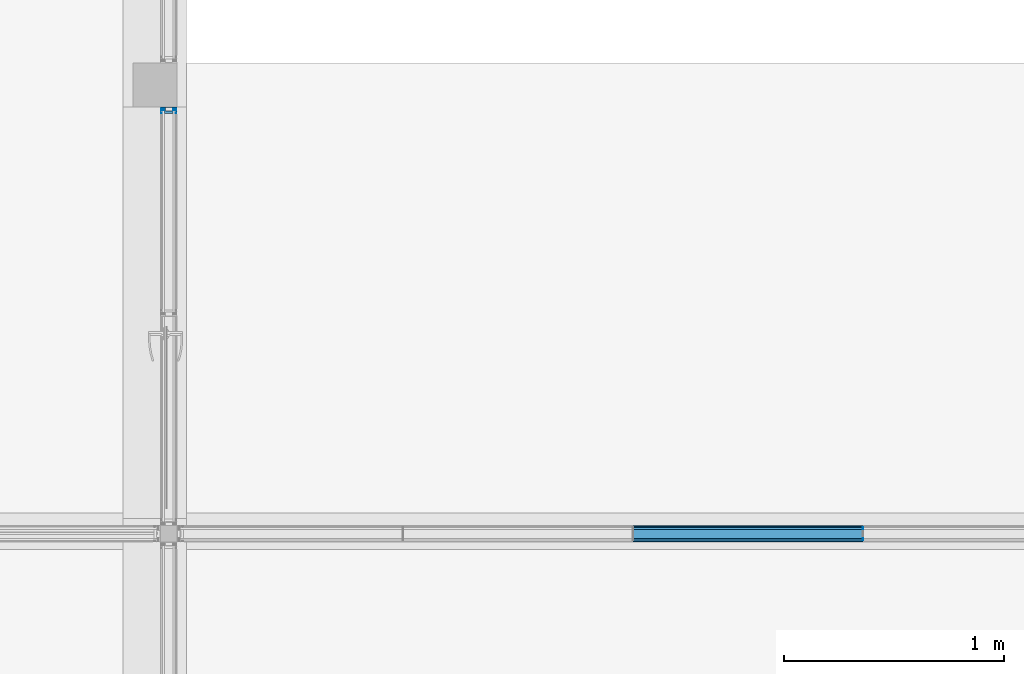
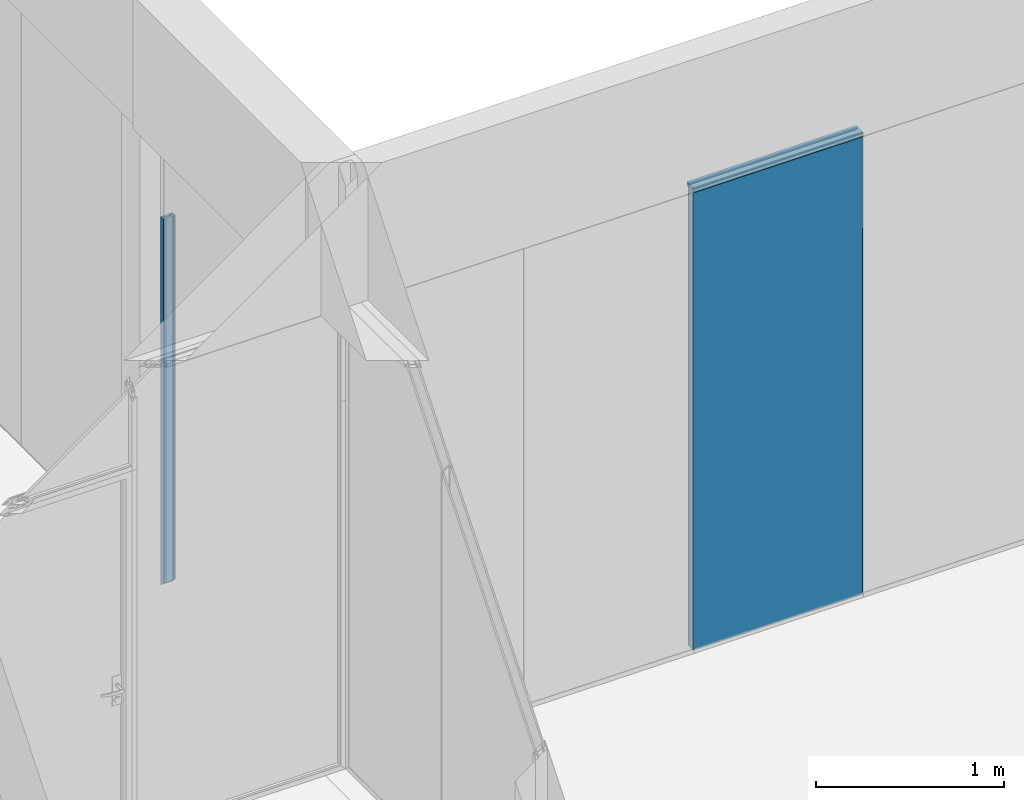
# One storey, part 74 of 387: 7 building element parts, 6 elements without a shape of their own.
"""IFC2X3 building model written with IfcOpenShell, lengths in millimetres."""

from ifc_helpers import new_model, entity, si_unit, converted_unit, derived_unit, money_unit, direction, frame, origin_with_axes, place, context, subcontext, project, spatial, faceted_brep, source, transform, mapped, material, type_object, element, aggregate, save


model = new_model("IFC2X3")

# Units and contexts
model_context = context("Model", 3, precision=0.01, world=origin_with_axes(), true_north=direction((0.0, 1.0)))
body_context = subcontext(model_context, "Body", "Model", "MODEL_VIEW")
ifc_project = project(units=[si_unit("LENGTHUNIT", "METRE", prefix="MILLI"), si_unit("AREAUNIT", "SQUARE_METRE"), si_unit("VOLUMEUNIT", "CUBIC_METRE"), converted_unit("PLANEANGLEUNIT", "DEGREE", entity("IfcPlaneAngleMeasure", 0.0174532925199), si_unit("PLANEANGLEUNIT", "RADIAN"), dimensions=[0, 0, 0, 0, 0, 0, 0]), si_unit("SOLIDANGLEUNIT", "STERADIAN"), money_unit("EUR"), converted_unit("TIMEUNIT", "Year", entity("IfcTimeMeasure", 31556926.0), si_unit("TIMEUNIT", "SECOND"), dimensions=[0, 0, 1, 0, 0, 0, 0]), si_unit("MASSUNIT", "GRAM", prefix="KILO"), si_unit("THERMODYNAMICTEMPERATUREUNIT", "DEGREE_CELSIUS"), si_unit("LUMINOUSINTENSITYUNIT", "LUMEN"), si_unit("ENERGYUNIT", "JOULE", prefix="MEGA"), derived_unit("THERMALCONDUCTANCEUNIT", [(si_unit("POWERUNIT", "WATT"), 1), (si_unit("LENGTHUNIT", "METRE"), -1), (si_unit("THERMODYNAMICTEMPERATUREUNIT", "KELVIN"), -1)]), derived_unit("SPECIFICHEATCAPACITYUNIT", [(si_unit("ENERGYUNIT", "JOULE"), 1), (si_unit("MASSUNIT", "GRAM", prefix="KILO"), -1), (si_unit("THERMODYNAMICTEMPERATUREUNIT", "KELVIN"), -1)]), derived_unit("MASSDENSITYUNIT", [(si_unit("MASSUNIT", "GRAM", prefix="KILO"), 1), (si_unit("VOLUMEUNIT", "CUBIC_METRE"), -1)])], contexts=[model_context])

# Site, building, storey
site_placement = place(None, origin_with_axes())
site = spatial("IfcSite", under=ifc_project, at=site_placement, Name="Puškini 31, Narva", CompositionType="ELEMENT")
building_placement = place(site_placement, origin_with_axes())
building = spatial("IfcBuilding", under=site, at=building_placement, Name="Narva Riigigümnaasium", CompositionType="ELEMENT")
storey_placement = place(building_placement, frame((0.0, 0.0, 2640.0), z_axis=(0.0, 0.0, 1.0), x_axis=(1.0, 0.0, 0.0)))
storey = spatial("IfcBuildingStorey", under=building, at=storey_placement, Name="2.korrus +2.64", CompositionType="ELEMENT", Elevation=2640.0)

# Curtain wall, member, building element parts
curtain_wall_type = type_object("IfcCurtainWallType", Name="Curtain Wall Type", PredefinedType="NOTDEFINED")
curtain_wall_1_placement = place(storey_placement, frame((32763.0000013, 173975.000001, -1.33722362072e-05), z_axis=(0.0, 0.0, 1.0), x_axis=(1.0, 0.0, 0.0)))
curtain_wall_1 = element("IfcCurtainWall", 1, at=curtain_wall_1_placement, inside=storey, type_object=curtain_wall_type, Name="G-SKLF-14")
member_type_1 = type_object("IfcMemberType", Name="30 x 37", PredefinedType="MULLION")
member_1_placement = place(curtain_wall_1_placement, frame((3.74171804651e-08, 1425.0001142, 0.0), z_axis=(0.0, 0.0, 1.0), x_axis=(0.0, -1.0, 0.0)))
member_1 = element("IfcMember", 2, at=member_1_placement, type_object=member_type_1, Name="G-SKLF-14-raam", ObjectType="MULLION")
aggregate(curtain_wall_1, [member_1])
ifc_material_1 = material(Name="Klaasvill")
shared_shape_1 = source(origin_with_axes(), body_context, "Body", "Brep", [
    faceted_brep([(-13.8499999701, 20.000000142, 13.8499999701), (-7.49999990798, 20.000000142, 7.49999990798), (-7.49999990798, 20.000000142, 2400.00000477), (-13.8499999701, 20.000000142, 2400.00000477), (-13.8499999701, 34.0161444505, 13.8499999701), (-7.49999990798, 34.0161444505, 7.49999990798), (-7.49999990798, 34.0161444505, 2400.00000477), (-13.8499999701, 34.0161444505, 2400.00000477)], [[[0, 1, 2, 3]], [[1, 0, 4, 5]], [[1, 5, 6, 2]], [[2, 6, 7, 3]], [[4, 0, 3, 7]], [[5, 4, 7, 6]]]),
    faceted_brep([(-25.004489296, 32.0307503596, 25.004489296), (-24.987414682, 34.0161444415, 24.987414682), (-24.987414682, 34.0161444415, 2400.00000477), (-25.004489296, 32.0307503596, 2400.00000477), (-25.742237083, 31.2930025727, 25.742237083), (-26.7500193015, 31.0229681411, 26.7500193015), (-27.75780152, 31.2930025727, 27.75780152), (-28.4955493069, 32.0307503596, 28.4955493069), (-28.7655837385, 33.0385325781, 28.7655837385), (-28.5126239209, 34.0161444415, 28.5126239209), (-28.5126239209, 34.0161444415, 2400.00000477), (-28.7655837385, 33.0385325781, 2400.00000477), (-28.4955493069, 32.0307503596, 2400.00000477), (-27.75780152, 31.2930025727, 2400.00000477), (-26.7500193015, 31.0229681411, 2400.00000477), (-25.742237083, 31.2930025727, 2400.00000477)], [[[0, 1, 2, 3]], [[1, 0, 4, 5, 6, 7, 8, 9]], [[1, 9, 10, 2]], [[2, 10, 11, 12, 13, 14, 15, 3]], [[4, 0, 3, 15]], [[5, 4, 15, 14]], [[6, 5, 14, 13]], [[7, 6, 13, 12]], [[8, 7, 12, 11]], [[9, 8, 11, 10]]]),
    faceted_brep([(-7.49999990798, -34.0161445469, 7.49999990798), (-7.49999990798, -19.9999997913, 7.49999990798), (-7.49999990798, -19.9999997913, 2400.00000477), (-7.49999990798, -34.0161445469, 2400.00000477), (-13.8499999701, -34.0161445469, 13.8499999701), (-13.8499999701, -19.9999997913, 13.8499999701), (-13.8499999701, -19.9999997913, 2400.00000477), (-13.8499999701, -34.0161445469, 2400.00000477)], [[[0, 1, 2, 3]], [[1, 0, 4, 5]], [[1, 5, 6, 2]], [[2, 6, 7, 3]], [[4, 0, 3, 7]], [[5, 4, 7, 6]]]),
    faceted_brep([(-24.987414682, -34.0161444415, 24.987414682), (-25.004489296, -32.0307503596, 25.004489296), (-25.004489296, -32.0307503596, 2400.00000477), (-24.987414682, -34.0161444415, 2400.00000477), (-28.5126239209, -34.0161444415, 28.5126239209), (-28.7655837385, -33.0385325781, 28.7655837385), (-28.4955493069, -32.0307503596, 28.4955493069), (-27.75780152, -31.2930025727, 27.75780152), (-26.7500193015, -31.0229681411, 26.7500193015), (-25.742237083, -31.2930025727, 25.742237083), (-25.742237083, -31.2930025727, 2400.00000477), (-26.7500193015, -31.0229681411, 2400.00000477), (-27.75780152, -31.2930025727, 2400.00000477), (-28.4955493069, -32.0307503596, 2400.00000477), (-28.7655837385, -33.0385325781, 2400.00000477), (-28.5126239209, -34.0161444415, 2400.00000477)], [[[0, 1, 2, 3]], [[1, 0, 4, 5, 6, 7, 8, 9]], [[1, 9, 10, 2]], [[2, 10, 11, 12, 13, 14, 15, 3]], [[4, 0, 3, 15]], [[5, 4, 15, 14]], [[6, 5, 14, 13]], [[7, 6, 13, 12]], [[8, 7, 12, 11]], [[9, 8, 11, 10]]]),
])
building_element_part_1_placement = place(member_1_placement, origin_with_axes())
building_element_part_1 = element("IfcBuildingElementPart", 3, at=building_element_part_1_placement, material=ifc_material_1, Name="Klaasvill", context=body_context, shape_type="MappedRepresentation", body=[
    mapped(shared_shape_1, transform((0.0, 0.0, 0.0), x_axis=(-1.0, 0.0, 0.0), y_axis=(0.0, -1.0, 0.0), z_axis=(0.0, 0.0, 1.0))),
])
ifc_material_2 = material(Name="Teras RAL7012")
shared_shape_2 = source(origin_with_axes(), body_context, "Body", "Brep", [
    faceted_brep([(-29.5999996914, -17.0000000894, 29.5999996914), (0.0, -17.0000000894, 0.0), (0.0, -17.0000000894, 2400.00000477), (-29.5999996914, -17.0000000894, 2400.00000477), (-29.5999996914, 17.0000000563, 29.5999996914), (0.0, 17.0000000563, 0.0), (-1.9999999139, 15.0000001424, 1.9999999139), (-18.7999996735, 15.0000001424, 18.7999996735), (-18.7999996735, -15.0000001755, 18.7999996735), (-1.9999999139, -15.0000001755, 1.9999999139), (0.0, 17.0000000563, 2400.00000477), (-29.5999996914, 17.0000000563, 2400.00000477), (-1.9999999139, 15.0000001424, 2400.00000477), (-1.9999999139, -15.0000001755, 2400.00000477), (-18.7999996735, -15.0000001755, 2400.00000477), (-18.7999996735, 15.0000001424, 2400.00000477)], [[[0, 1, 2, 3]], [[1, 0, 4, 5], [6, 7, 8, 9]], [[1, 5, 10, 2]], [[2, 10, 11, 3], [12, 13, 14, 15]], [[4, 0, 3, 11]], [[5, 4, 11, 10]], [[7, 6, 12, 15]], [[8, 7, 15, 14]], [[9, 8, 14, 13]], [[6, 9, 13, 12]]]),
    faceted_brep([(-29.5999996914, 17.0000000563, 29.5999996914), (0.0, 17.0, 0.0), (0.0, 17.0, 2400.00000477), (-29.5999996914, 17.0000000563, 2400.00000477), (-30.0000193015, 17.0, 30.0000193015), (-30.0000193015, 20.0, 30.0000193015), (-13.8499999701, 20.000000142, 13.8499999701), (-7.49999999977, 20.0, 7.49999999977), (-7.49999999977, 34.0161444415, 7.49999999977), (-13.8499999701, 34.0161444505, 13.8499999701), (-24.987414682, 34.0161444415, 24.987414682), (-28.5126239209, 34.0161444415, 28.5126239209), (-30.0000193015, 34.0161444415, 30.0000193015), (-30.0000193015, 37.0, 30.0000193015), (0.0, 37.0, 0.0), (0.0, 37.0, 2400.00000477), (-30.0000193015, 37.0, 2400.00000477), (-30.0000193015, 34.0161444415, 2400.00000477), (-28.5126239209, 34.0161444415, 2400.00000477), (-24.987414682, 34.0161444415, 2400.00000477), (-13.8499999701, 34.0161444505, 2400.00000477), (-7.49999999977, 34.0161444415, 2400.00000477), (-7.49999999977, 20.0, 2400.00000477), (-13.8499999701, 20.000000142, 2400.00000477), (-30.0000193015, 20.0, 2400.00000477), (-30.0000193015, 17.0, 2400.00000477)], [[[0, 1, 2, 3]], [[1, 0, 4, 5, 6, 7, 8, 9, 10, 11, 12, 13, 14]], [[1, 14, 15, 2]], [[2, 15, 16, 17, 18, 19, 20, 21, 22, 23, 24, 25, 3]], [[4, 0, 3, 25]], [[5, 4, 25, 24]], [[6, 5, 24, 23]], [[7, 6, 23, 22]], [[8, 7, 22, 21]], [[9, 8, 21, 20]], [[10, 9, 20, 19]], [[11, 10, 19, 18]], [[12, 11, 18, 17]], [[13, 12, 17, 16]], [[14, 13, 16, 15]]]),
    faceted_brep([(0.0, -37.0, 0.0), (0.0, -17.0, 0.0), (0.0, -17.0, 2400.00000477), (0.0, -37.0, 2400.00000477), (-30.0000193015, -37.0, 30.0000193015), (-30.0000193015, -34.0161444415, 30.0000193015), (-28.5126239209, -34.0161444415, 28.5126239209), (-24.987414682, -34.0161444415, 24.987414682), (-13.8499999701, -34.0161445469, 13.8499999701), (-7.49999999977, -34.0161444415, 7.49999999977), (-7.49999999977, -20.0, 7.49999999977), (-13.8499999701, -19.9999997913, 13.8499999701), (-30.0000193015, -20.0, 30.0000193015), (-30.0000193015, -17.0, 30.0000193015), (-29.5999996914, -17.0000000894, 29.5999996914), (-29.5999996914, -17.0000000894, 2400.00000477), (-30.0000193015, -17.0, 2400.00000477), (-30.0000193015, -20.0, 2400.00000477), (-13.8499999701, -19.9999997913, 2400.00000477), (-7.49999999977, -20.0, 2400.00000477), (-7.49999999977, -34.0161444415, 2400.00000477), (-13.8499999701, -34.0161445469, 2400.00000477), (-24.987414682, -34.0161444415, 2400.00000477), (-28.5126239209, -34.0161444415, 2400.00000477), (-30.0000193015, -34.0161444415, 2400.00000477), (-30.0000193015, -37.0, 2400.00000477)], [[[0, 1, 2, 3]], [[1, 0, 4, 5, 6, 7, 8, 9, 10, 11, 12, 13, 14]], [[1, 14, 15, 2]], [[2, 15, 16, 17, 18, 19, 20, 21, 22, 23, 24, 25, 3]], [[4, 0, 3, 25]], [[5, 4, 25, 24]], [[6, 5, 24, 23]], [[7, 6, 23, 22]], [[8, 7, 22, 21]], [[9, 8, 21, 20]], [[10, 9, 20, 19]], [[11, 10, 19, 18]], [[12, 11, 18, 17]], [[13, 12, 17, 16]], [[14, 13, 16, 15]]]),
])
building_element_part_2_placement = place(member_1_placement, origin_with_axes())
building_element_part_2 = element("IfcBuildingElementPart", 4, at=building_element_part_2_placement, material=ifc_material_2, Name="Teras RAL7012", context=body_context, shape_type="MappedRepresentation", body=[
    mapped(shared_shape_2, transform((0.0, 0.0, 0.0), x_axis=(-1.0, 0.0, 0.0), y_axis=(0.0, -1.0, 0.0), z_axis=(0.0, 0.0, 1.0))),
])
aggregate(member_1, [building_element_part_1, building_element_part_2])

# Curtain wall, members, building element parts, plate
curtain_wall_2_placement = place(storey_placement, frame((37550.2857124, 173462.999993, -4.40148757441e-05), z_axis=(0.0, 0.0, 1.0), x_axis=(1.0, 0.0, 0.0)))
curtain_wall_2 = element("IfcCurtainWall", 5, at=curtain_wall_2_placement, inside=storey, type_object=curtain_wall_type, Name="G-SKLF-27")
member_2_placement = place(curtain_wall_2_placement, frame((-2680.28571429, -1.87583282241e-08, 3029.99994006), z_axis=(1.0, 0.0, 0.0), x_axis=(0.0, 0.0, -1.0)))
member_2 = element("IfcMember", 6, at=member_2_placement, type_object=member_type_1, Name="G-SKLF-57-raam", ObjectType="MULLION")
shared_shape_3 = source(origin_with_axes(), body_context, "Body", "Brep", [
    faceted_brep([(7.49999990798, 20.000000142, 0.0), (13.8499999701, 20.000000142, 0.0), (13.8499999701, 20.000000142, 1044.0), (7.49999990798, 20.000000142, 1044.0), (7.49999990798, 34.0161444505, 0.0), (13.8499999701, 34.0161444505, 0.0), (13.8499999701, 34.0161444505, 1044.0), (7.49999990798, 34.0161444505, 1044.0)], [[[0, 1, 2, 3]], [[0, 4, 5, 1]], [[1, 5, 6, 2]], [[3, 2, 6, 7]], [[4, 0, 3, 7]], [[5, 4, 7, 6]]]),
    faceted_brep([(24.987414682, 34.0161444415, 0.0), (25.004489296, 32.0307503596, 0.0), (25.004489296, 32.0307503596, 1044.0), (24.987414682, 34.0161444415, 1044.0), (28.5126239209, 34.0161444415, 0.0), (28.7655837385, 33.0385325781, 0.0), (28.4955493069, 32.0307503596, 0.0), (27.75780152, 31.2930025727, 0.0), (26.7500193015, 31.0229681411, 0.0), (25.742237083, 31.2930025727, 0.0), (25.742237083, 31.2930025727, 1044.0), (26.7500193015, 31.0229681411, 1044.0), (27.75780152, 31.2930025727, 1044.0), (28.4955493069, 32.0307503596, 1044.0), (28.7655837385, 33.0385325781, 1044.0), (28.5126239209, 34.0161444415, 1044.0)], [[[0, 1, 2, 3]], [[0, 4, 5, 6, 7, 8, 9, 1]], [[1, 9, 10, 2]], [[3, 2, 10, 11, 12, 13, 14, 15]], [[4, 0, 3, 15]], [[5, 4, 15, 14]], [[6, 5, 14, 13]], [[7, 6, 13, 12]], [[8, 7, 12, 11]], [[9, 8, 11, 10]]]),
    faceted_brep([(7.49999990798, -19.9999997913, 0.0), (7.49999990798, -34.0161445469, 0.0), (7.49999990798, -34.0161445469, 1044.0), (7.49999990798, -19.9999997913, 1044.0), (13.8499999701, -19.9999997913, 0.0), (13.8499999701, -34.0161445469, 0.0), (13.8499999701, -34.0161445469, 1044.0), (13.8499999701, -19.9999997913, 1044.0)], [[[0, 1, 2, 3]], [[0, 4, 5, 1]], [[1, 5, 6, 2]], [[3, 2, 6, 7]], [[4, 0, 3, 7]], [[5, 4, 7, 6]]]),
    faceted_brep([(25.004489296, -32.0307503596, 0.0), (24.987414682, -34.0161444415, 0.0), (24.987414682, -34.0161444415, 1044.0), (25.004489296, -32.0307503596, 1044.0), (25.742237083, -31.2930025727, 0.0), (26.7500193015, -31.0229681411, 0.0), (27.75780152, -31.2930025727, 0.0), (28.4955493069, -32.0307503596, 0.0), (28.7655837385, -33.0385325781, 0.0), (28.5126239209, -34.0161444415, 0.0), (28.5126239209, -34.0161444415, 1044.0), (28.7655837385, -33.0385325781, 1044.0), (28.4955493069, -32.0307503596, 1044.0), (27.75780152, -31.2930025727, 1044.0), (26.7500193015, -31.0229681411, 1044.0), (25.742237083, -31.2930025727, 1044.0)], [[[0, 1, 2, 3]], [[0, 4, 5, 6, 7, 8, 9, 1]], [[1, 9, 10, 2]], [[3, 2, 10, 11, 12, 13, 14, 15]], [[4, 0, 3, 15]], [[5, 4, 15, 14]], [[6, 5, 14, 13]], [[7, 6, 13, 12]], [[8, 7, 12, 11]], [[9, 8, 11, 10]]]),
])
building_element_part_3_placement = place(member_2_placement, origin_with_axes())
building_element_part_3 = element("IfcBuildingElementPart", 7, at=building_element_part_3_placement, material=ifc_material_1, Name="Klaasvill", context=body_context, shape_type="MappedRepresentation", body=[
    mapped(shared_shape_3, transform((0.0, 0.0, 0.0))),
])
shared_shape_4 = source(origin_with_axes(), body_context, "Body", "Brep", [
    faceted_brep([(0.0, -17.0000000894, 0.0), (29.5999996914, -17.0000000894, 0.0), (29.5999996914, -17.0000000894, 1044.0), (0.0, -17.0000000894, 1044.0), (0.0, 17.0000000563, 0.0), (29.5999996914, 17.0000000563, 0.0), (1.9999999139, 15.0000001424, 0.0), (1.9999999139, -15.0000001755, 0.0), (18.7999996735, -15.0000001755, 0.0), (18.7999996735, 15.0000001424, 0.0), (29.5999996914, 17.0000000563, 1044.0), (0.0, 17.0000000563, 1044.0), (1.9999999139, 15.0000001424, 1044.0), (18.7999996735, 15.0000001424, 1044.0), (18.7999996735, -15.0000001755, 1044.0), (1.9999999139, -15.0000001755, 1044.0)], [[[0, 1, 2, 3]], [[0, 4, 5, 1], [6, 7, 8, 9]], [[1, 5, 10, 2]], [[3, 2, 10, 11], [12, 13, 14, 15]], [[4, 0, 3, 11]], [[5, 4, 11, 10]], [[7, 6, 12, 15]], [[8, 7, 15, 14]], [[9, 8, 14, 13]], [[6, 9, 13, 12]]]),
    faceted_brep([(0.0, 17.0, 0.0), (29.5999996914, 17.0000000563, 0.0), (29.5999996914, 17.0000000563, 1044.0), (0.0, 17.0, 1044.0), (0.0, 37.0, 0.0), (30.0000193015, 37.0, 0.0), (30.0000193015, 34.0161444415, 0.0), (28.5126239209, 34.0161444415, 0.0), (24.987414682, 34.0161444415, 0.0), (13.8499999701, 34.0161444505, 0.0), (7.49999999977, 34.0161444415, 0.0), (7.49999999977, 20.0, 0.0), (13.8499999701, 20.000000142, 0.0), (30.0000193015, 20.0, 0.0), (30.0000193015, 17.0, 0.0), (30.0000193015, 17.0, 1044.0), (30.0000193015, 20.0, 1044.0), (13.8499999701, 20.000000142, 1044.0), (7.49999999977, 20.0, 1044.0), (7.49999999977, 34.0161444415, 1044.0), (13.8499999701, 34.0161444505, 1044.0), (24.987414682, 34.0161444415, 1044.0), (28.5126239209, 34.0161444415, 1044.0), (30.0000193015, 34.0161444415, 1044.0), (30.0000193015, 37.0, 1044.0), (0.0, 37.0, 1044.0)], [[[0, 1, 2, 3]], [[0, 4, 5, 6, 7, 8, 9, 10, 11, 12, 13, 14, 1]], [[1, 14, 15, 2]], [[3, 2, 15, 16, 17, 18, 19, 20, 21, 22, 23, 24, 25]], [[4, 0, 3, 25]], [[5, 4, 25, 24]], [[6, 5, 24, 23]], [[7, 6, 23, 22]], [[8, 7, 22, 21]], [[9, 8, 21, 20]], [[10, 9, 20, 19]], [[11, 10, 19, 18]], [[12, 11, 18, 17]], [[13, 12, 17, 16]], [[14, 13, 16, 15]]]),
    faceted_brep([(0.0, -17.0, 0.0), (0.0, -37.0, 0.0), (0.0, -37.0, 1044.0), (0.0, -17.0, 1044.0), (29.5999996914, -17.0000000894, 0.0), (30.0000193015, -17.0, 0.0), (30.0000193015, -20.0, 0.0), (13.8499999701, -19.9999997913, 0.0), (7.49999999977, -20.0, 0.0), (7.49999999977, -34.0161444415, 0.0), (13.8499999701, -34.0161445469, 0.0), (24.987414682, -34.0161444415, 0.0), (28.5126239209, -34.0161444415, 0.0), (30.0000193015, -34.0161444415, 0.0), (30.0000193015, -37.0, 0.0), (30.0000193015, -37.0, 1044.0), (30.0000193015, -34.0161444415, 1044.0), (28.5126239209, -34.0161444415, 1044.0), (24.987414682, -34.0161444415, 1044.0), (13.8499999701, -34.0161445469, 1044.0), (7.49999999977, -34.0161444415, 1044.0), (7.49999999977, -20.0, 1044.0), (13.8499999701, -19.9999997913, 1044.0), (30.0000193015, -20.0, 1044.0), (30.0000193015, -17.0, 1044.0), (29.5999996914, -17.0000000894, 1044.0)], [[[0, 1, 2, 3]], [[0, 4, 5, 6, 7, 8, 9, 10, 11, 12, 13, 14, 1]], [[1, 14, 15, 2]], [[3, 2, 15, 16, 17, 18, 19, 20, 21, 22, 23, 24, 25]], [[4, 0, 3, 25]], [[5, 4, 25, 24]], [[6, 5, 24, 23]], [[7, 6, 23, 22]], [[8, 7, 22, 21]], [[9, 8, 21, 20]], [[10, 9, 20, 19]], [[11, 10, 19, 18]], [[12, 11, 18, 17]], [[13, 12, 17, 16]], [[14, 13, 16, 15]]]),
])
building_element_part_4_placement = place(member_2_placement, origin_with_axes())
building_element_part_4 = element("IfcBuildingElementPart", 8, at=building_element_part_4_placement, material=ifc_material_2, Name="Teras RAL7012", context=body_context, shape_type="MappedRepresentation", body=[
    mapped(shared_shape_4, transform((0.0, 0.0, 0.0))),
])
aggregate(member_2, [building_element_part_3, building_element_part_4])
member_type_2 = type_object("IfcMemberType", Name="Siseklaasfassaad - Raam n2htamatu 3 x 29", PredefinedType="MULLION")
member_3_placement = place(curtain_wall_2_placement, frame((-1636.28571429, -1.14539489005e-08, 3.92464998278e-05), z_axis=(0.0, 0.0, 1.0), x_axis=(1.0, 0.0, 0.0)))
member_3 = element("IfcMember", 9, at=member_3_placement, type_object=member_type_2, Name="G-SKLF-27-raam", ObjectType="MULLION")
ifc_material_3 = material(Name="Klaas")
shared_shape_5 = source(origin_with_axes(), body_context, "Body", "Brep", [
    faceted_brep([(1.5000138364, 20.0064497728, 30.0000193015), (1.5000138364, 20.0064497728, 2400.00000477), (-1.4999861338, 20.0064497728, 2400.00000477), (-1.4999861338, 20.0064497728, 30.0000193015), (1.5000138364, 29.0064496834, 30.0000193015), (1.5000138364, 29.0064496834, 2400.00000477), (-1.4999861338, 29.0064496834, 2400.00000477), (-1.4999861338, 29.0064496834, 30.0000193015)], [[[0, 1, 2, 3]], [[4, 5, 1, 0]], [[2, 1, 5, 6]], [[3, 2, 6, 7]], [[3, 7, 4, 0]], [[7, 6, 5, 4]]]),
    faceted_brep([(-1.4999861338, -28.9935503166, 30.0000193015), (-1.4999861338, -28.9935503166, 2400.00000477), (-1.4999861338, -19.993550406, 2400.00000477), (-1.4999861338, -19.993550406, 30.0000193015), (1.5000138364, -28.9935503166, 30.0000193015), (1.5000138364, -28.9935503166, 2400.00000477), (1.5000138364, -19.993550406, 2400.00000477), (1.5000138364, -19.993550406, 30.0000193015)], [[[0, 1, 2, 3]], [[4, 5, 1, 0]], [[2, 1, 5, 6]], [[3, 2, 6, 7]], [[3, 7, 4, 0]], [[7, 6, 5, 4]]]),
])
building_element_part_5_placement = place(member_3_placement, origin_with_axes())
building_element_part_5 = element("IfcBuildingElementPart", 10, at=building_element_part_5_placement, material=ifc_material_3, Name="Klaas", context=body_context, shape_type="MappedRepresentation", body=[
    mapped(shared_shape_5, transform((0.0, 0.0, 0.0))),
])
aggregate(member_3, [building_element_part_5])
plate_type = type_object("IfcPlateType", Name="1041 x 615 x 10", PredefinedType="CURTAIN_PANEL")
plate_placement = place(curtain_wall_2_placement, frame((-2158.28571429, -1.5120349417e-08, 1810.00000777), z_axis=(0.0, 0.0, 1.0), x_axis=(1.0, 0.0, 0.0)))
plate = element("IfcPlate", 11, at=plate_placement, type_object=plate_type, Name="G-SKLF-27-klaas", ObjectType="CURTAIN_PANEL")
aggregate(curtain_wall_2, [member_2, member_3, plate])
ifc_material_4 = material(Name="VKR-05_Klaas")
shared_shape_6 = source(origin_with_axes(), body_context, "Body", "Brep", [
    faceted_brep([(1042.50000958, 3014.99990948, -29.0), (1.49999195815, 3014.99999978, -29.0), (1.49999195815, 3014.99999978, -20.0), (1042.50000958, 3014.99990948, -20.0), (1042.50000958, 15.0000098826, -29.0), (1.49999195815, 15.0000098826, -29.0), (1.49999195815, 15.0000098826, -20.0), (1042.50000958, 15.0000098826, -20.0)], [[[0, 1, 2, 3]], [[0, 4, 5, 1]], [[1, 5, 6, 2]], [[3, 2, 6, 7]], [[4, 0, 3, 7]], [[5, 4, 7, 6]]]),
    faceted_brep([(1042.50000958, 3014.99990948, 20.0), (1.49999195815, 3014.99999978, 20.0), (1.49999195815, 3014.99999978, 29.0), (1042.50000958, 3014.99990948, 29.0), (1042.50000958, 15.0000098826, 20.0), (1.49999195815, 15.0000098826, 20.0), (1.49999195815, 15.0000098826, 29.0), (1042.50000958, 15.0000098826, 29.0)], [[[0, 1, 2, 3]], [[0, 4, 5, 1]], [[1, 5, 6, 2]], [[3, 2, 6, 7]], [[4, 0, 3, 7]], [[5, 4, 7, 6]]]),
])
building_element_part_6_placement = place(plate_placement, origin_with_axes())
building_element_part_6 = element("IfcBuildingElementPart", 12, at=building_element_part_6_placement, material=ifc_material_4, Name="VKR-05_Klaas", context=body_context, shape_type="MappedRepresentation", body=[
    mapped(shared_shape_6, transform((522.0, 0.0, -1809.99996853), x_axis=(-1.0, 0.0, 0.0), y_axis=(0.0, 0.0, 1.0), z_axis=(0.0, 1.0, 0.0))),
])
ifc_material_5 = material(Name="VKR-06_Õhkvahe")
shared_shape_7 = source(origin_with_axes(), body_context, "Body", "Brep", [
    faceted_brep([(1042.50000958, 3014.99990948, -20.0), (1.49999195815, 3014.99999978, -20.0), (1.49999195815, 3014.99999978, 20.0), (1042.50000958, 3014.99990948, 20.0), (1042.50000958, 15.0000098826, -20.0), (1.49999195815, 15.0000098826, -20.0), (1.49999195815, 15.0000098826, 20.0), (1042.50000958, 15.0000098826, 20.0)], [[[0, 1, 2, 3]], [[0, 4, 5, 1]], [[1, 5, 6, 2]], [[3, 2, 6, 7]], [[4, 0, 3, 7]], [[5, 4, 7, 6]]]),
])
building_element_part_7_placement = place(plate_placement, origin_with_axes())
building_element_part_7 = element("IfcBuildingElementPart", 13, at=building_element_part_7_placement, material=ifc_material_5, Name="VKR-06_Õhkvahe", context=body_context, shape_type="MappedRepresentation", body=[
    mapped(shared_shape_7, transform((522.0, 0.0, -1809.99996853), x_axis=(-1.0, 0.0, 0.0), y_axis=(0.0, 0.0, 1.0), z_axis=(0.0, 1.0, 0.0))),
])
aggregate(plate, [building_element_part_6, building_element_part_7])

save(model, "model.ifc")
